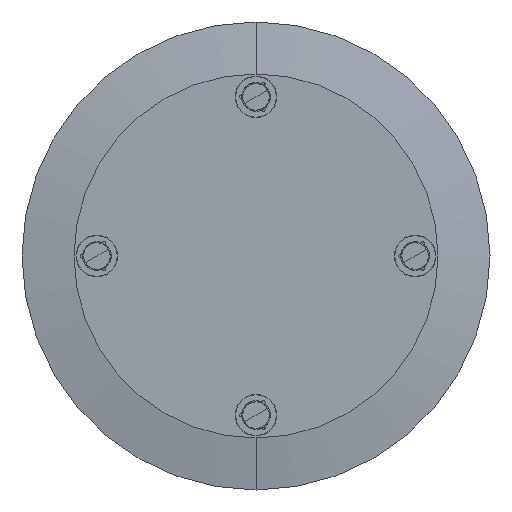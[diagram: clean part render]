
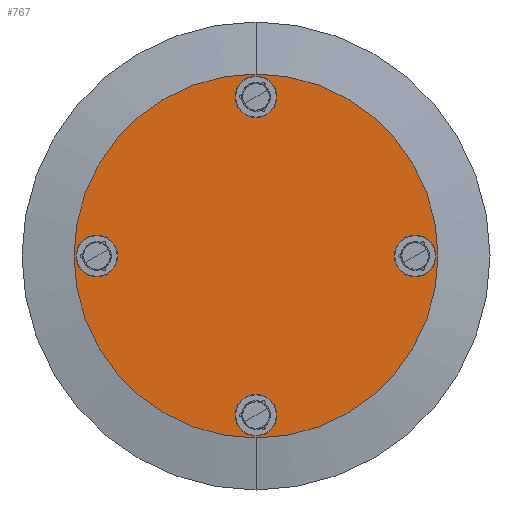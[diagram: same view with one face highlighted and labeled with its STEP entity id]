
A CAD part, front view. The second image highlights one B-rep face of the part: STEP entity #767.
In plain terms, the highlighted planar face has unit normal (0, -1, 0).
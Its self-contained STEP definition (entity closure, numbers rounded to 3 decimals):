
#39 = PLANE ( 'NONE',  #2234 ) ;
#52 = DIRECTION ( 'NONE',  ( 0., 0., -1. ) ) ;
#56 = EDGE_CURVE ( 'NONE', #1336, #831, #1003, .T. ) ;
#67 = ORIENTED_EDGE ( 'NONE', *, *, #406, .F. ) ;
#74 = CARTESIAN_POINT ( 'NONE',  ( 0., 0., 0. ) ) ;
#87 = EDGE_LOOP ( 'NONE', ( #964, #782 ) ) ;
#113 = AXIS2_PLACEMENT_3D ( 'NONE', #1636, #864, #1042 ) ;
#127 = EDGE_CURVE ( 'NONE', #1692, #1138, #1300, .T. ) ;
#162 = CARTESIAN_POINT ( 'NONE',  ( 0., 0., 0. ) ) ;
#219 = DIRECTION ( 'NONE',  ( 0., 0., -1. ) ) ;
#225 = VERTEX_POINT ( 'NONE', #558 ) ;
#270 = CARTESIAN_POINT ( 'NONE',  ( 0., 0., 0. ) ) ;
#274 = EDGE_CURVE ( 'NONE', #1832, #515, #2000, .T. ) ;
#275 = CARTESIAN_POINT ( 'NONE',  ( 306., 0., 0. ) ) ;
#311 = CARTESIAN_POINT ( 'NONE',  ( 306., 0., 40. ) ) ;
#318 = ORIENTED_EDGE ( 'NONE', *, *, #56, .F. ) ;
#322 = EDGE_CURVE ( 'NONE', #515, #1832, #1120, .T. ) ;
#358 = DIRECTION ( 'NONE',  ( 0., -1., 0. ) ) ;
#372 = DIRECTION ( 'NONE',  ( 0., -1., 0. ) ) ;
#406 = EDGE_CURVE ( 'NONE', #831, #1336, #1919, .T. ) ;
#433 = CIRCLE ( 'NONE', #2099, 350. ) ;
#449 = CARTESIAN_POINT ( 'NONE',  ( -306., 0., 0. ) ) ;
#454 = DIRECTION ( 'NONE',  ( 0., -1., 0. ) ) ;
#458 = DIRECTION ( 'NONE',  ( 0., 1., 0. ) ) ;
#498 = EDGE_LOOP ( 'NONE', ( #1503, #1624 ) ) ;
#515 = VERTEX_POINT ( 'NONE', #1604 ) ;
#555 = AXIS2_PLACEMENT_3D ( 'NONE', #978, #372, #1770 ) ;
#558 = CARTESIAN_POINT ( 'NONE',  ( -306., 0., 40. ) ) ;
#610 = VERTEX_POINT ( 'NONE', #994 ) ;
#651 = ORIENTED_EDGE ( 'NONE', *, *, #1679, .T. ) ;
#658 = CARTESIAN_POINT ( 'NONE',  ( 0., 0., -346. ) ) ;
#767 = ADVANCED_FACE ( 'NONE', ( #873, #2353, #1848, #1401, #2326 ), #39, .F. ) ;
#782 = ORIENTED_EDGE ( 'NONE', *, *, #2264, .F. ) ;
#789 = CARTESIAN_POINT ( 'NONE',  ( 0., 0., -306. ) ) ;
#794 = EDGE_CURVE ( 'NONE', #1197, #225, #906, .T. ) ;
#831 = VERTEX_POINT ( 'NONE', #658 ) ;
#847 = DIRECTION ( 'NONE',  ( 0., -1., 0. ) ) ;
#864 = DIRECTION ( 'NONE',  ( 0., -1., 0. ) ) ;
#873 = FACE_BOUND ( 'NONE', #87, .T. ) ;
#886 = ORIENTED_EDGE ( 'NONE', *, *, #322, .F. ) ;
#906 = CIRCLE ( 'NONE', #113, 40. ) ;
#964 = ORIENTED_EDGE ( 'NONE', *, *, #127, .F. ) ;
#968 = DIRECTION ( 'NONE',  ( 0., 0., -1. ) ) ;
#978 = CARTESIAN_POINT ( 'NONE',  ( 0., 0., 306. ) ) ;
#994 = CARTESIAN_POINT ( 'NONE',  ( 0., 0., -350. ) ) ;
#1003 = CIRCLE ( 'NONE', #1935, 40. ) ;
#1042 = DIRECTION ( 'NONE',  ( 0., 0., -1. ) ) ;
#1047 = AXIS2_PLACEMENT_3D ( 'NONE', #162, #358, #1367 ) ;
#1114 = VERTEX_POINT ( 'NONE', #1606 ) ;
#1120 = CIRCLE ( 'NONE', #1643, 40. ) ;
#1126 = CIRCLE ( 'NONE', #1779, 40. ) ;
#1138 = VERTEX_POINT ( 'NONE', #311 ) ;
#1160 = DIRECTION ( 'NONE',  ( 0., -1., 0. ) ) ;
#1195 = DIRECTION ( 'NONE',  ( 0., 0., -1. ) ) ;
#1197 = VERTEX_POINT ( 'NONE', #2191 ) ;
#1300 = CIRCLE ( 'NONE', #1419, 40. ) ;
#1315 = CARTESIAN_POINT ( 'NONE',  ( 306., 0., -40. ) ) ;
#1336 = VERTEX_POINT ( 'NONE', #1424 ) ;
#1353 = ORIENTED_EDGE ( 'NONE', *, *, #1981, .T. ) ;
#1367 = DIRECTION ( 'NONE',  ( 0., 0., 1. ) ) ;
#1401 = FACE_BOUND ( 'NONE', #2147, .T. ) ;
#1419 = AXIS2_PLACEMENT_3D ( 'NONE', #275, #1634, #52 ) ;
#1424 = CARTESIAN_POINT ( 'NONE',  ( 0., 0., -266. ) ) ;
#1434 = DIRECTION ( 'NONE',  ( 0., 0., 1. ) ) ;
#1439 = DIRECTION ( 'NONE',  ( 0., 0., -1. ) ) ;
#1503 = ORIENTED_EDGE ( 'NONE', *, *, #794, .F. ) ;
#1531 = CIRCLE ( 'NONE', #1534, 40. ) ;
#1534 = AXIS2_PLACEMENT_3D ( 'NONE', #449, #847, #2202 ) ;
#1579 = DIRECTION ( 'NONE',  ( 0., -1., 0. ) ) ;
#1586 = CARTESIAN_POINT ( 'NONE',  ( 306., 0., 0. ) ) ;
#1604 = CARTESIAN_POINT ( 'NONE',  ( 0., 0., 346. ) ) ;
#1606 = CARTESIAN_POINT ( 'NONE',  ( 0., 0., 350. ) ) ;
#1620 = CARTESIAN_POINT ( 'NONE',  ( 0., 0., -306. ) ) ;
#1624 = ORIENTED_EDGE ( 'NONE', *, *, #1990, .F. ) ;
#1634 = DIRECTION ( 'NONE',  ( 0., -1., 0. ) ) ;
#1636 = CARTESIAN_POINT ( 'NONE',  ( -306., 0., 0. ) ) ;
#1643 = AXIS2_PLACEMENT_3D ( 'NONE', #1951, #1160, #968 ) ;
#1679 = EDGE_CURVE ( 'NONE', #1114, #610, #2183, .T. ) ;
#1692 = VERTEX_POINT ( 'NONE', #1315 ) ;
#1723 = EDGE_LOOP ( 'NONE', ( #651, #1353 ) ) ;
#1770 = DIRECTION ( 'NONE',  ( 0., 0., -1. ) ) ;
#1779 = AXIS2_PLACEMENT_3D ( 'NONE', #1586, #1579, #1195 ) ;
#1785 = CARTESIAN_POINT ( 'NONE',  ( 0., 0., 266. ) ) ;
#1803 = AXIS2_PLACEMENT_3D ( 'NONE', #789, #2323, #219 ) ;
#1807 = DIRECTION ( 'NONE',  ( 0., 0., 1. ) ) ;
#1832 = VERTEX_POINT ( 'NONE', #1785 ) ;
#1848 = FACE_BOUND ( 'NONE', #498, .T. ) ;
#1919 = CIRCLE ( 'NONE', #1803, 40. ) ;
#1935 = AXIS2_PLACEMENT_3D ( 'NONE', #1620, #454, #1439 ) ;
#1951 = CARTESIAN_POINT ( 'NONE',  ( 0., 0., 306. ) ) ;
#1981 = EDGE_CURVE ( 'NONE', #610, #1114, #433, .T. ) ;
#1990 = EDGE_CURVE ( 'NONE', #225, #1197, #1531, .T. ) ;
#2000 = CIRCLE ( 'NONE', #555, 40. ) ;
#2099 = AXIS2_PLACEMENT_3D ( 'NONE', #74, #2380, #1434 ) ;
#2147 = EDGE_LOOP ( 'NONE', ( #2337, #886 ) ) ;
#2183 = CIRCLE ( 'NONE', #1047, 350. ) ;
#2191 = CARTESIAN_POINT ( 'NONE',  ( -306., 0., -40. ) ) ;
#2202 = DIRECTION ( 'NONE',  ( 0., 0., -1. ) ) ;
#2234 = AXIS2_PLACEMENT_3D ( 'NONE', #270, #458, #1807 ) ;
#2264 = EDGE_CURVE ( 'NONE', #1138, #1692, #1126, .T. ) ;
#2323 = DIRECTION ( 'NONE',  ( 0., -1., 0. ) ) ;
#2326 = FACE_OUTER_BOUND ( 'NONE', #1723, .T. ) ;
#2337 = ORIENTED_EDGE ( 'NONE', *, *, #274, .F. ) ;
#2353 = FACE_BOUND ( 'NONE', #2464, .T. ) ;
#2380 = DIRECTION ( 'NONE',  ( 0., -1., 0. ) ) ;
#2464 = EDGE_LOOP ( 'NONE', ( #67, #318 ) ) ;
